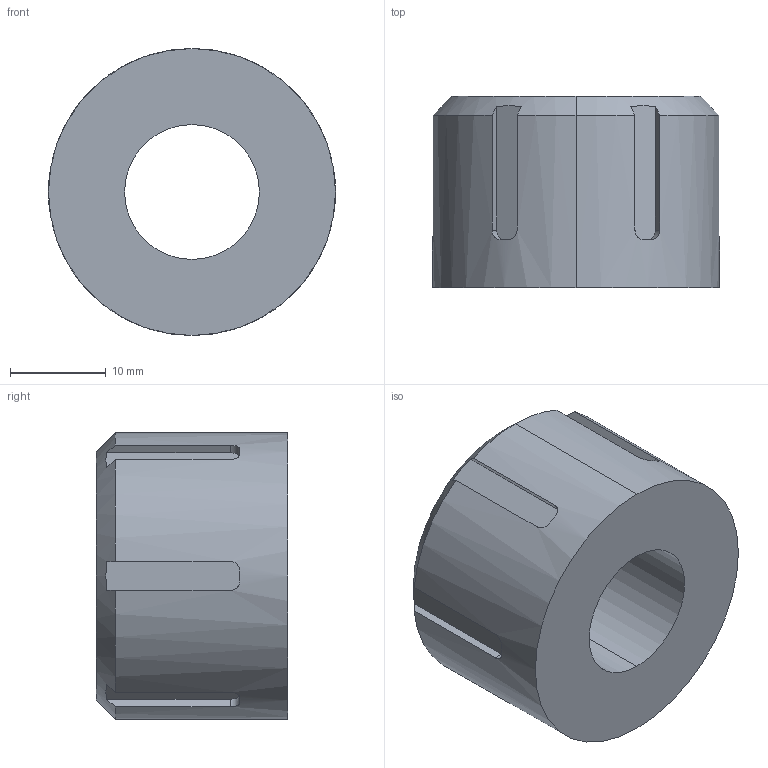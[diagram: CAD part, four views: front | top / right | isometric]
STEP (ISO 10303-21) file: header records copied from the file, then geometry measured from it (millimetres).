
FILE_DESCRIPTION (( 'STEP AP214' ), '1' );
FILE_NAME ('2026_3_3_クランプスリーブ.STEP', '2026-03-19T07:09:26', ( '' ), ( '' ), 'SwSTEP 2.0', 'SolidWorks 2025', '' );
FILE_SCHEMA (( 'AUTOMOTIVE_DESIGN' ));
Length unit declared in the file: millimetre
Products named in the file (1): 2026_3_3_クランプスリーブ
Bounding box: 30 x 20 x 30 mm (x, y, z)
Volume: 10588.8 mm3; surface area: 3912.8 mm2
Topology: 1 solids, 1 shells, 47 faces, 130 edges, 86 vertices
Faces by surface type: plane 27, cylinder 18, cone 2
Entity records: 1637 total; most frequent: CARTESIAN_POINT 406, ORIENTED_EDGE 260, DIRECTION 234, EDGE_CURVE 130, VERTEX_POINT 86, AXIS2_PLACEMENT_3D 86, LINE 62, VECTOR 62
